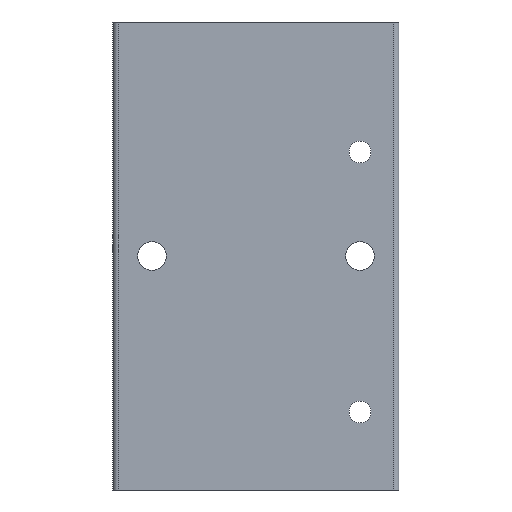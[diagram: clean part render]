
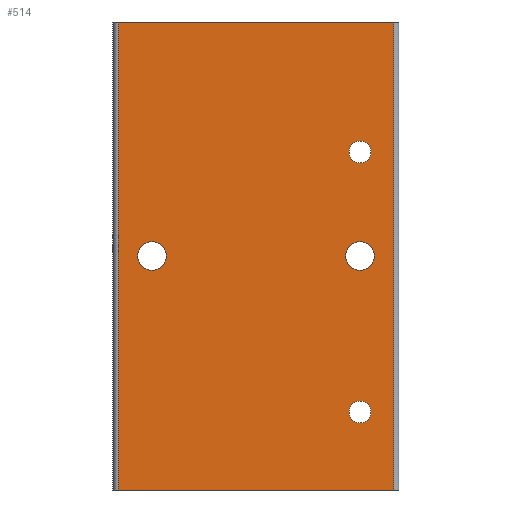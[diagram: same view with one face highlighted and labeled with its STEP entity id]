
A CAD part, front view. The second image highlights one B-rep face of the part: STEP entity #514.
In plain terms, the highlighted planar face has unit normal (0, -1, 0).
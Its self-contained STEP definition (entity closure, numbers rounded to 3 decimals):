
#237 = VERTEX_POINT ( 'NONE', #3332 ) ;
#255 = EDGE_CURVE ( 'NONE', #237, #256, #3400, .T. ) ;
#256 = VERTEX_POINT ( 'NONE', #3230 ) ;
#313 = VERTEX_POINT ( 'NONE', #3436 ) ;
#315 = EDGE_CURVE ( 'NONE', #316, #313, #3592, .T. ) ;
#316 = VERTEX_POINT ( 'NONE', #3598 ) ;
#467 = EDGE_CURVE ( 'NONE', #2061, #2060, #3606, .T. ) ;
#468 = ORIENTED_EDGE ( 'NONE', *, *, #2059, .T. ) ;
#488 = EDGE_LOOP ( 'NONE', ( #543, #566 ) ) ;
#501 = EDGE_CURVE ( 'NONE', #237, #316, #3741, .T. ) ;
#502 = EDGE_CURVE ( 'NONE', #2313, #2312, #3640, .T. ) ;
#514 = ADVANCED_FACE ( 'NONE', ( #3732, #3731, #3730, #3729, #3728 ), #3727, .F. ) ;
#515 = EDGE_LOOP ( 'NONE', ( #547, #624 ) ) ;
#522 = ORIENTED_EDGE ( 'NONE', *, *, #523, .T. ) ;
#523 = EDGE_CURVE ( 'NONE', #2213, #2096, #3679, .T. ) ;
#540 = ORIENTED_EDGE ( 'NONE', *, *, #255, .F. ) ;
#541 = ORIENTED_EDGE ( 'NONE', *, *, #501, .T. ) ;
#543 = ORIENTED_EDGE ( 'NONE', *, *, #502, .T. ) ;
#545 = ORIENTED_EDGE ( 'NONE', *, *, #315, .T. ) ;
#546 = ORIENTED_EDGE ( 'NONE', *, *, #563, .T. ) ;
#547 = ORIENTED_EDGE ( 'NONE', *, *, #548, .T. ) ;
#548 = EDGE_CURVE ( 'NONE', #2050, #2055, #3840, .T. ) ;
#563 = EDGE_CURVE ( 'NONE', #313, #256, #3873, .T. ) ;
#566 = ORIENTED_EDGE ( 'NONE', *, *, #2392, .T. ) ;
#584 = EDGE_LOOP ( 'NONE', ( #540, #541, #545, #546 ) ) ;
#595 = EDGE_LOOP ( 'NONE', ( #596, #468 ) ) ;
#596 = ORIENTED_EDGE ( 'NONE', *, *, #467, .T. ) ;
#624 = ORIENTED_EDGE ( 'NONE', *, *, #2040, .T. ) ;
#625 = EDGE_LOOP ( 'NONE', ( #522, #649 ) ) ;
#649 = ORIENTED_EDGE ( 'NONE', *, *, #2095, .T. ) ;
#2040 = EDGE_CURVE ( 'NONE', #2055, #2050, #6195, .T. ) ;
#2050 = VERTEX_POINT ( 'NONE', #6159 ) ;
#2055 = VERTEX_POINT ( 'NONE', #6152 ) ;
#2059 = EDGE_CURVE ( 'NONE', #2060, #2061, #6150, .T. ) ;
#2060 = VERTEX_POINT ( 'NONE', #6145 ) ;
#2061 = VERTEX_POINT ( 'NONE', #6144 ) ;
#2095 = EDGE_CURVE ( 'NONE', #2096, #2213, #6053, .T. ) ;
#2096 = VERTEX_POINT ( 'NONE', #6008 ) ;
#2213 = VERTEX_POINT ( 'NONE', #6660 ) ;
#2312 = VERTEX_POINT ( 'NONE', #6494 ) ;
#2313 = VERTEX_POINT ( 'NONE', #6493 ) ;
#2392 = EDGE_CURVE ( 'NONE', #2312, #2313, #7865, .T. ) ;
#3230 = CARTESIAN_POINT ( 'NONE',  ( 29., -15., 45. ) ) ;
#3332 = CARTESIAN_POINT ( 'NONE',  ( -24., -15., 45. ) ) ;
#3397 = DIRECTION ( 'NONE',  ( 1., 0., 0. ) ) ;
#3398 = VECTOR ( 'NONE', #3397, 1000. ) ;
#3399 = CARTESIAN_POINT ( 'NONE',  ( -25., -15., 45. ) ) ;
#3400 = LINE ( 'NONE', #3399, #3398 ) ;
#3436 = CARTESIAN_POINT ( 'NONE',  ( 29., -15., -45. ) ) ;
#3460 = VECTOR ( 'NONE', #3599, 1000. ) ;
#3461 = CARTESIAN_POINT ( 'NONE',  ( -25., -15., -45. ) ) ;
#3592 = LINE ( 'NONE', #3461, #3460 ) ;
#3598 = CARTESIAN_POINT ( 'NONE',  ( -24., -15., -45. ) ) ;
#3599 = DIRECTION ( 'NONE',  ( 1., 0., 0. ) ) ;
#3603 = DIRECTION ( 'NONE',  ( 0., 0., 1. ) ) ;
#3604 = DIRECTION ( 'NONE',  ( 0., 1., 0. ) ) ;
#3605 = AXIS2_PLACEMENT_3D ( 'NONE', #3615, #3604, #3603 ) ;
#3606 = CIRCLE ( 'NONE', #3605, 2.75 ) ;
#3615 = CARTESIAN_POINT ( 'NONE',  ( 22.5, -15., 0. ) ) ;
#3636 = DIRECTION ( 'NONE',  ( 0., 0., 1. ) ) ;
#3637 = DIRECTION ( 'NONE',  ( 0., 1., 0. ) ) ;
#3638 = CARTESIAN_POINT ( 'NONE',  ( -17.5, -15., 0. ) ) ;
#3639 = AXIS2_PLACEMENT_3D ( 'NONE', #3638, #3637, #3636 ) ;
#3640 = CIRCLE ( 'NONE', #3639, 2.75 ) ;
#3641 = DIRECTION ( 'NONE',  ( 0., 0., -1. ) ) ;
#3642 = VECTOR ( 'NONE', #3641, 1000. ) ;
#3666 = DIRECTION ( 'NONE',  ( -1., 0., 0. ) ) ;
#3675 = DIRECTION ( 'NONE',  ( -1., 0., 0. ) ) ;
#3676 = DIRECTION ( 'NONE',  ( 0., 1., 0. ) ) ;
#3677 = CARTESIAN_POINT ( 'NONE',  ( 22.5, -15., 20. ) ) ;
#3678 = AXIS2_PLACEMENT_3D ( 'NONE', #3677, #3676, #3675 ) ;
#3679 = CIRCLE ( 'NONE', #3678, 2.1 ) ;
#3724 = DIRECTION ( 'NONE',  ( 0., 1., 0. ) ) ;
#3725 = CARTESIAN_POINT ( 'NONE',  ( -25., -15., 45. ) ) ;
#3726 = AXIS2_PLACEMENT_3D ( 'NONE', #3725, #3724, #3666 ) ;
#3727 = PLANE ( 'NONE',  #3726 ) ;
#3728 = FACE_OUTER_BOUND ( 'NONE', #584, .T. ) ;
#3729 = FACE_BOUND ( 'NONE', #488, .T. ) ;
#3730 = FACE_BOUND ( 'NONE', #595, .T. ) ;
#3731 = FACE_BOUND ( 'NONE', #625, .T. ) ;
#3732 = FACE_BOUND ( 'NONE', #515, .T. ) ;
#3736 = CARTESIAN_POINT ( 'NONE',  ( -24., -15., 45. ) ) ;
#3741 = LINE ( 'NONE', #3736, #3642 ) ;
#3829 = DIRECTION ( 'NONE',  ( 0., 1., 0. ) ) ;
#3840 = CIRCLE ( 'NONE', #3868, 2.1 ) ;
#3867 = CARTESIAN_POINT ( 'NONE',  ( 22.5, -15., -30. ) ) ;
#3868 = AXIS2_PLACEMENT_3D ( 'NONE', #3867, #3829, #3944 ) ;
#3873 = LINE ( 'NONE', #3956, #3955 ) ;
#3944 = DIRECTION ( 'NONE',  ( -1., 0., 0. ) ) ;
#3955 = VECTOR ( 'NONE', #3976, 1000. ) ;
#3956 = CARTESIAN_POINT ( 'NONE',  ( 29., -15., 45. ) ) ;
#3976 = DIRECTION ( 'NONE',  ( 0., 0., 1. ) ) ;
#6008 = CARTESIAN_POINT ( 'NONE',  ( 22.5, -15., 17.9 ) ) ;
#6009 = DIRECTION ( 'NONE',  ( -1., 0., 0. ) ) ;
#6010 = DIRECTION ( 'NONE',  ( 0., 1., 0. ) ) ;
#6011 = CARTESIAN_POINT ( 'NONE',  ( 22.5, -15., 20. ) ) ;
#6012 = AXIS2_PLACEMENT_3D ( 'NONE', #6011, #6010, #6009 ) ;
#6053 = CIRCLE ( 'NONE', #6012, 2.1 ) ;
#6144 = CARTESIAN_POINT ( 'NONE',  ( 22.5, -15., 2.75 ) ) ;
#6145 = CARTESIAN_POINT ( 'NONE',  ( 22.5, -15., -2.75 ) ) ;
#6146 = DIRECTION ( 'NONE',  ( 0., 0., 1. ) ) ;
#6147 = DIRECTION ( 'NONE',  ( 0., 1., 0. ) ) ;
#6148 = CARTESIAN_POINT ( 'NONE',  ( 22.5, -15., 0. ) ) ;
#6149 = AXIS2_PLACEMENT_3D ( 'NONE', #6148, #6147, #6146 ) ;
#6150 = CIRCLE ( 'NONE', #6149, 2.75 ) ;
#6152 = CARTESIAN_POINT ( 'NONE',  ( 22.5, -15., -32.1 ) ) ;
#6159 = CARTESIAN_POINT ( 'NONE',  ( 22.5, -15., -27.9 ) ) ;
#6191 = DIRECTION ( 'NONE',  ( -1., 0., 0. ) ) ;
#6192 = DIRECTION ( 'NONE',  ( 0., 1., 0. ) ) ;
#6193 = CARTESIAN_POINT ( 'NONE',  ( 22.5, -15., -30. ) ) ;
#6194 = AXIS2_PLACEMENT_3D ( 'NONE', #6193, #6192, #6191 ) ;
#6195 = CIRCLE ( 'NONE', #6194, 2.1 ) ;
#6493 = CARTESIAN_POINT ( 'NONE',  ( -17.5, -15., 2.75 ) ) ;
#6494 = CARTESIAN_POINT ( 'NONE',  ( -17.5, -15., -2.75 ) ) ;
#6660 = CARTESIAN_POINT ( 'NONE',  ( 22.5, -15., 22.1 ) ) ;
#7810 = CARTESIAN_POINT ( 'NONE',  ( -17.5, -15., 0. ) ) ;
#7862 = DIRECTION ( 'NONE',  ( 0., 0., 1. ) ) ;
#7863 = DIRECTION ( 'NONE',  ( 0., 1., 0. ) ) ;
#7864 = AXIS2_PLACEMENT_3D ( 'NONE', #7810, #7863, #7862 ) ;
#7865 = CIRCLE ( 'NONE', #7864, 2.75 ) ;
